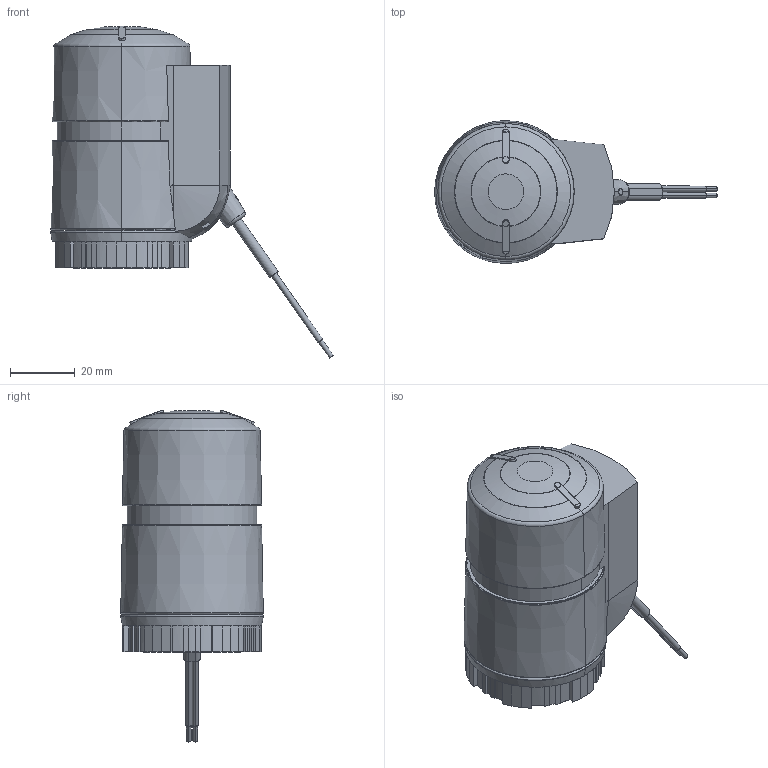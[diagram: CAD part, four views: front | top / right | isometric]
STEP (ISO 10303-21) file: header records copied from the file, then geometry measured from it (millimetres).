
FILE_DESCRIPTION(('no description'),'unknown implementation level');
FILE_NAME('STP-SIEMENS_3D.stp',' ',('pit-cup GmbH'),('ccLab - KiM Gmbh - www.kimweb.de'),'unknown preprocess','ACIS','unknown authorization');
FILE_SCHEMA(('automotive_design'));
Length unit declared in the file: millimetre
Products named in the file (9): 1; 2; 3; 4; 5; 6; 7; 8; 9
Bounding box: 87.28 x 44 x 102.49 mm (x, y, z)
Volume: 114152.6 mm3; surface area: 28093.1 mm2
Topology: 9 solids, 10 shells, 328 faces, 859 edges, 553 vertices
Faces by surface type: plane 193, cylinder 49, cone 44, torus 42
Entity records: 21747 total; most frequent: CARTESIAN_POINT 3868, STYLED_ITEM 1745, PRESENTATION_STYLE_ASSIGNMENT 1745, COLOUR_RGB 1745, ORIENTED_EDGE 1710, DIRECTION 1686, EDGE_CURVE 855, CURVE_STYLE 855
